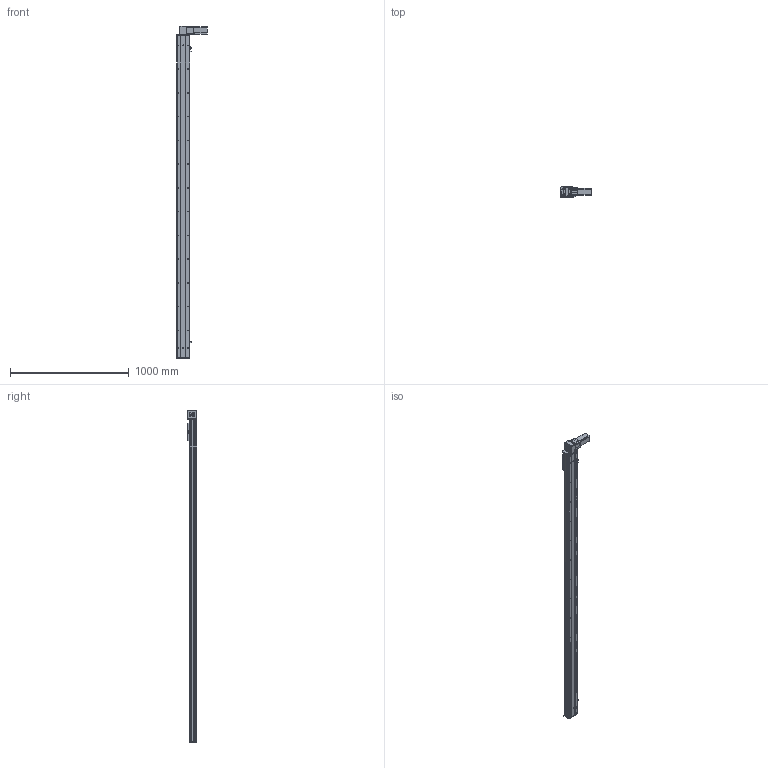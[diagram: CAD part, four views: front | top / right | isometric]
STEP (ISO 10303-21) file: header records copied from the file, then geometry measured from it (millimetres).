
FILE_DESCRIPTION (( 'STEP AP203' ), '1' );
FILE_NAME ('Y10CB-D90-S2450-BD-P400W.STEP', '2020-02-17T03:04:03', ( '微软用户' ), ( '微软中国' ), 'SwSTEP 2.0', 'SolidWorks 2017', '' );
FILE_SCHEMA (( 'CONFIG_CONTROL_DESIGN' ));
Length unit declared in the file: millimetre
Products named in the file (16): 10CB9-掛极; 0Cb-俋欶---; 10CB-耜裔; Y10B-々湍喘謫眊楊擘啣--; Y135C-陔俋离換覜結え-; san松下电机400不带刹车----; Y100-135俋离換覜ん--; 0B-源倛裔啣; Y10B--々湍喘謫眊--666; 0B-埴倛裔啣; 0B-薊粣ん眊; 10CB-詩湍-; Y10CB-D90-S2450-BD-P400W; Y10CB- 掛极耜裔啣-毀---; Y10C---詩湍揤啣; 0CB-雄赽釱---
Assembly tree (19 placements, depth 2):
  Y10CB-D90-S2450-BD-P400W
    0CB-雄赽釱---
    0Cb-俋欶---
    Y10B-々湍喘謫眊楊擘啣--
    san松下电机400不带刹车----
    0B-源倛裔啣
    0B-埴倛裔啣
    10CB-詩湍-
    Y10CB- 掛极耜裔啣-毀---  x2
    Y10C---詩湍揤啣  x2
    10CB9-掛极
    10CB-耜裔
    Y135C-陔俋离換覜結え-
    Y100-135俋离換覜ん--  x3
    Y10B--々湍喘謫眊--666
    0B-薊粣ん眊
Bounding box: 258 x 80.5 x 2796 mm (x, y, z)
Volume: 5666524.3 mm3; surface area: 2644331.7 mm2
Topology: 19 solids, 19 shells, 984 faces, 2662 edges, 1724 vertices
Faces by surface type: cylinder 510, plane 450, cone 24
Entity records: 31069 total; most frequent: CARTESIAN_POINT 5940, DIRECTION 4933, ORIENTED_EDGE 4794, EDGE_CURVE 2397, AXIS2_PLACEMENT_3D 1767, VERTEX_POINT 1550, LINE 1399, VECTOR 1399
